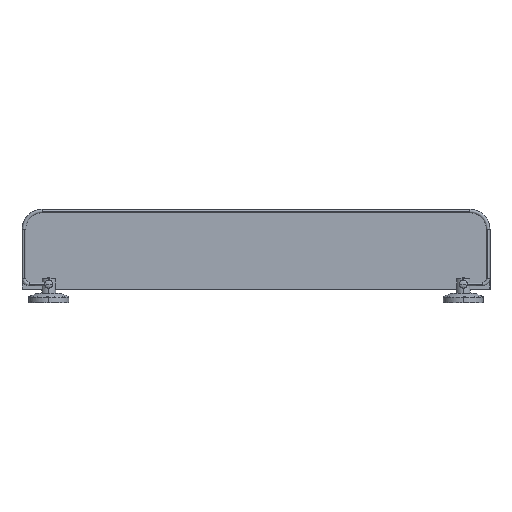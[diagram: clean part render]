
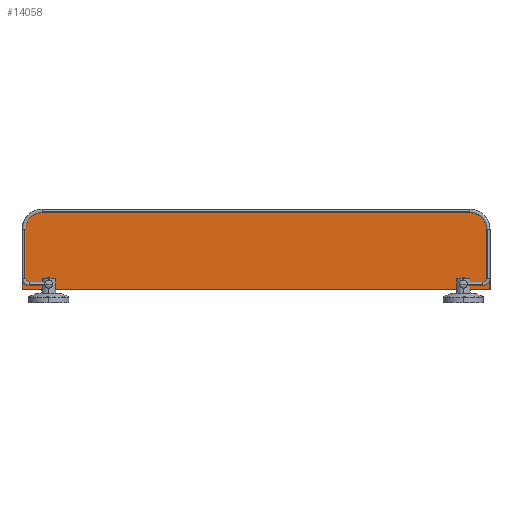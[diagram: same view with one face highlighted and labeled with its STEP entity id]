
A CAD part, top view. The second image highlights one B-rep face of the part: STEP entity #14058.
In plain terms, the highlighted planar face has unit normal (0, 0, 1).
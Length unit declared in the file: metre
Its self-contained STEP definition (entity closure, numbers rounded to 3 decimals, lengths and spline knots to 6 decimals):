
#14058=ADVANCED_FACE('',(#14064),#14059,.F.);
#14059=PLANE('',#14060);
#14060=AXIS2_PLACEMENT_3D('',#14061,#14062,#14063);
#14061=CARTESIAN_POINT('',(-0.31,0.0061,0.004));
#14062=DIRECTION('',(0.0,0.0,-1.0));
#14063=DIRECTION('',(1.0,0.0,0.0));
#14064=FACE_OUTER_BOUND('',#14065,.T.);
#14065=EDGE_LOOP('',(#14066,#14076,#14084,#14092,#14101,#14109));
#14066=ORIENTED_EDGE('',*,*,#14067,.T.);
#14067=EDGE_CURVE('',#14068,#14070,#14072,.T.);
#14068=VERTEX_POINT('',#14069);
#14069=CARTESIAN_POINT('',(-0.6595,0.0961,0.004));
#14070=VERTEX_POINT('',#14071);
#14071=CARTESIAN_POINT('',(-0.6595,0.0066,0.004));
#14072=LINE('',#14073,#14074);
#14073=CARTESIAN_POINT('',(-0.6595,0.0061,0.004));
#14074=VECTOR('',#14075,1.0);
#14075=DIRECTION('',(0.0,-1.0,0.0));
#14076=ORIENTED_EDGE('',*,*,#14077,.T.);
#14077=EDGE_CURVE('',#14070,#14078,#14080,.T.);
#14078=VERTEX_POINT('',#14079);
#14079=CARTESIAN_POINT('',(0.0395,0.0066,0.004));
#14080=LINE('',#14081,#14082);
#14081=CARTESIAN_POINT('',(-0.31,0.0066,0.004));
#14082=VECTOR('',#14083,1.0);
#14083=DIRECTION('',(1.0,0.0,0.0));
#14084=ORIENTED_EDGE('',*,*,#14085,.T.);
#14085=EDGE_CURVE('',#14078,#14086,#14088,.T.);
#14086=VERTEX_POINT('',#14087);
#14087=CARTESIAN_POINT('',(0.0395,0.0961,0.004));
#14088=LINE('',#14089,#14090);
#14089=CARTESIAN_POINT('',(0.0395,0.0061,0.004));
#14090=VECTOR('',#14091,1.0);
#14091=DIRECTION('',(0.0,1.0,0.0));
#14092=ORIENTED_EDGE('',*,*,#14093,.T.);
#14093=EDGE_CURVE('',#14086,#14094,#14096,.F.);
#14094=VERTEX_POINT('',#14095);
#14095=CARTESIAN_POINT('',(0.01,0.1256,0.004));
#14096=CIRCLE('',#14097,0.0295);
#14097=AXIS2_PLACEMENT_3D('',#14098,#14099,#14100);
#14098=CARTESIAN_POINT('',(0.01,0.0961,0.004));
#14099=DIRECTION('',(0.0,0.0,-1.0));
#14100=DIRECTION('',(-1.0,0.0,0.0));
#14101=ORIENTED_EDGE('',*,*,#14102,.T.);
#14102=EDGE_CURVE('',#14094,#14103,#14105,.T.);
#14103=VERTEX_POINT('',#14104);
#14104=CARTESIAN_POINT('',(-0.63,0.1256,0.004));
#14105=LINE('',#14106,#14107);
#14106=CARTESIAN_POINT('',(-0.31,0.1256,0.004));
#14107=VECTOR('',#14108,1.0);
#14108=DIRECTION('',(-1.0,0.0,0.0));
#14109=ORIENTED_EDGE('',*,*,#14110,.T.);
#14110=EDGE_CURVE('',#14103,#14068,#14111,.F.);
#14111=CIRCLE('',#14112,0.0295);
#14112=AXIS2_PLACEMENT_3D('',#14113,#14114,#14115);
#14113=CARTESIAN_POINT('',(-0.63,0.0961,0.004));
#14114=DIRECTION('',(0.0,0.0,-1.0));
#14115=DIRECTION('',(-1.0,0.0,0.0));
